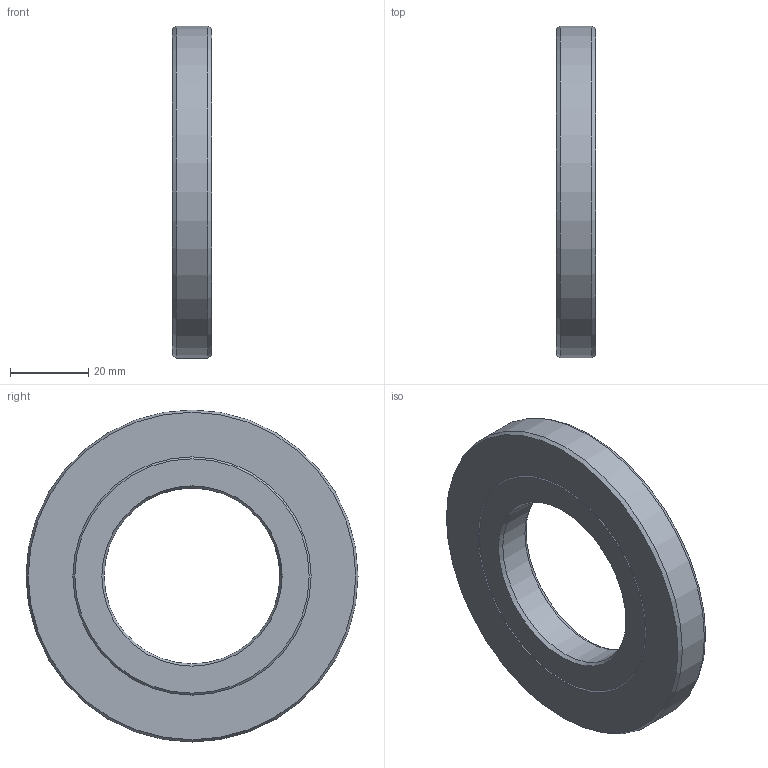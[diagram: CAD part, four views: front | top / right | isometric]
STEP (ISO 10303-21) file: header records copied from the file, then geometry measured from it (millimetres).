
FILE_DESCRIPTION(/* description */ (''),/* implementation_level */ '2;1');
FILE_NAME(/* name */ '301864 SA 45x85x10.stp',/* time_stamp */ '2016-12-16T15:17:01+01:00',/* author */ (''),/* organization */ (''),/* preprocessor_version */ 'ST-DEVELOPER v15',/* originating_system */ 'SIEMENS PLM Software NX 8.5',/* authorisation */ '');
FILE_SCHEMA (('CONFIG_CONTROL_DESIGN'));
Length unit declared in the file: millimetre
Products named in the file (1): ATE0000144_01
Bounding box: 10 x 85 x 85 mm (x, y, z)
Volume: 39432.4 mm3; surface area: 17219.1 mm2
Topology: 2 solids, 2 shells, 18 faces, 37 edges, 23 vertices
Faces by surface type: cone 10, plane 5, cylinder 3
Full cylindrical faces by diameter (mm): 45 x1, 85 x1
Entity records: 492 total; most frequent: DIRECTION 76, CARTESIAN_POINT 74, ORIENTED_EDGE 46, AXIS2_PLACEMENT_3D 38, EDGE_LOOP 33, FACE_BOUND 30, EDGE_CURVE 23, VERTEX_POINT 20
